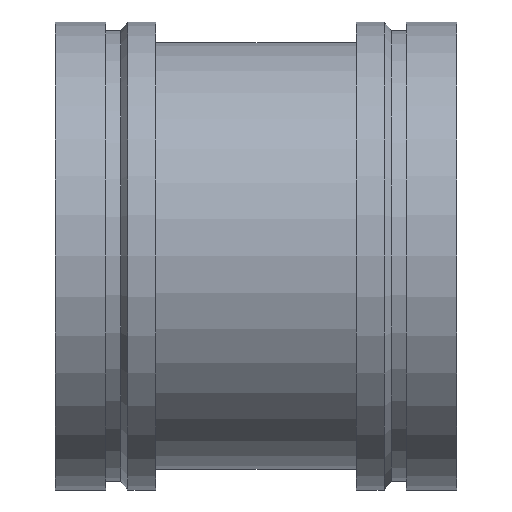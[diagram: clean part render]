
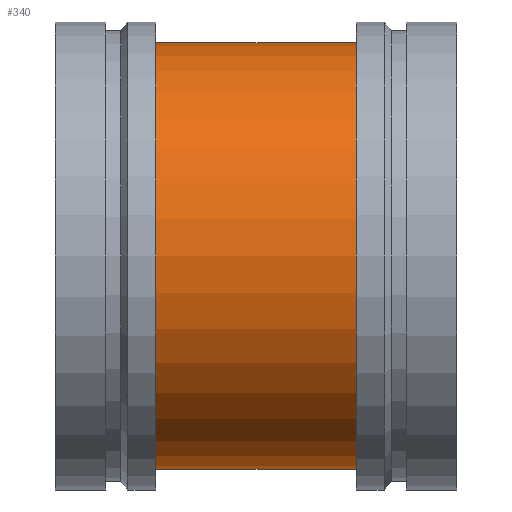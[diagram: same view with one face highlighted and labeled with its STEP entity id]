
A CAD part, front view. The second image highlights one B-rep face of the part: STEP entity #340.
In plain terms, the highlighted cylindrical face has radius 161.925 mm (diameter 323.85 mm), a full revolution.
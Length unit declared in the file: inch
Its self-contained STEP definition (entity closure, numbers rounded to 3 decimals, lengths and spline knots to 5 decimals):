
#51=LINE('',#613,#61);
#61=VECTOR('',#488,6.375);
#70=CYLINDRICAL_SURFACE('',#392,6.375);
#88=FACE_OUTER_BOUND('',#107,.T.);
#107=EDGE_LOOP('',(#261,#262,#263,#264,#265,#266));
#133=CIRCLE('',#390,6.375);
#134=CIRCLE('',#391,6.375);
#135=CIRCLE('',#393,6.375);
#136=CIRCLE('',#394,6.375);
#165=VERTEX_POINT('',#604);
#166=VERTEX_POINT('',#605);
#167=VERTEX_POINT('',#609);
#168=VERTEX_POINT('',#610);
#201=EDGE_CURVE('',#165,#166,#133,.T.);
#202=EDGE_CURVE('',#166,#165,#134,.T.);
#203=EDGE_CURVE('',#167,#168,#135,.T.);
#204=EDGE_CURVE('',#168,#167,#136,.T.);
#205=EDGE_CURVE('',#168,#166,#51,.T.);
#261=ORIENTED_EDGE('',*,*,#203,.F.);
#262=ORIENTED_EDGE('',*,*,#204,.F.);
#263=ORIENTED_EDGE('',*,*,#205,.T.);
#264=ORIENTED_EDGE('',*,*,#202,.T.);
#265=ORIENTED_EDGE('',*,*,#201,.T.);
#266=ORIENTED_EDGE('',*,*,#205,.F.);
#340=ADVANCED_FACE('',(#88),#70,.T.);
#390=AXIS2_PLACEMENT_3D('',#606,#478,#479);
#391=AXIS2_PLACEMENT_3D('',#607,#480,#481);
#392=AXIS2_PLACEMENT_3D('',#608,#482,#483);
#393=AXIS2_PLACEMENT_3D('',#611,#484,#485);
#394=AXIS2_PLACEMENT_3D('',#612,#486,#487);
#478=DIRECTION('center_axis',(1.,0.,0.));
#479=DIRECTION('ref_axis',(0.,0.,-1.));
#480=DIRECTION('center_axis',(1.,0.,0.));
#481=DIRECTION('ref_axis',(0.,0.,-1.));
#482=DIRECTION('center_axis',(1.,0.,0.));
#483=DIRECTION('ref_axis',(0.,1.,0.));
#484=DIRECTION('center_axis',(1.,0.,0.));
#485=DIRECTION('ref_axis',(0.,0.,-1.));
#486=DIRECTION('center_axis',(1.,0.,0.));
#487=DIRECTION('ref_axis',(0.,0.,-1.));
#488=DIRECTION('',(-1.,0.,0.));
#604=CARTESIAN_POINT('',(3.,6.375,0.));
#605=CARTESIAN_POINT('',(3.,-6.375,0.));
#606=CARTESIAN_POINT('Origin',(3.,0.,0.));
#607=CARTESIAN_POINT('Origin',(3.,0.,0.));
#608=CARTESIAN_POINT('Origin',(6.,0.,0.));
#609=CARTESIAN_POINT('',(9.,6.375,0.));
#610=CARTESIAN_POINT('',(9.,-6.375,0.));
#611=CARTESIAN_POINT('Origin',(9.,0.,0.));
#612=CARTESIAN_POINT('Origin',(9.,0.,0.));
#613=CARTESIAN_POINT('',(6.,-6.375,0.));
